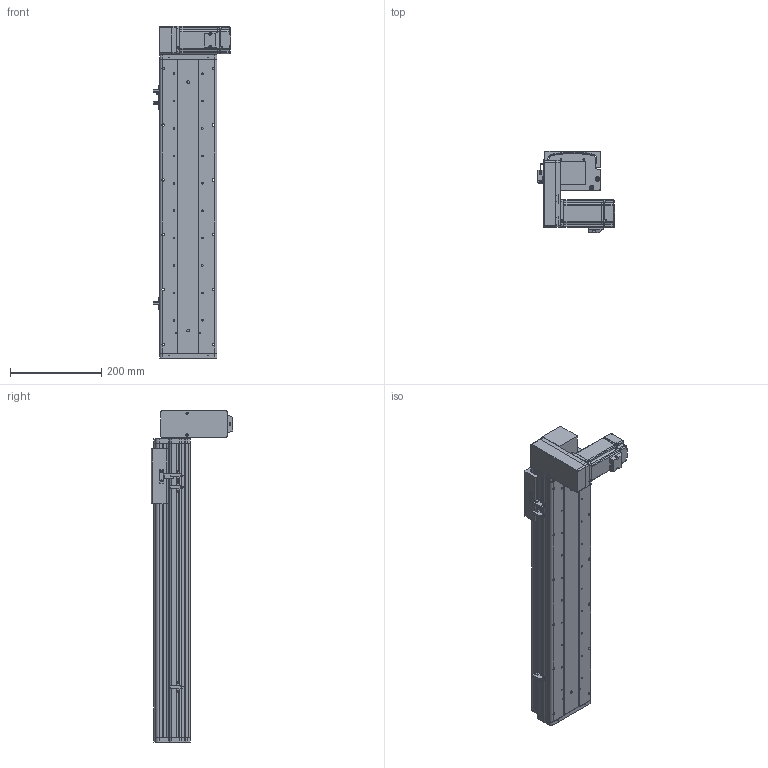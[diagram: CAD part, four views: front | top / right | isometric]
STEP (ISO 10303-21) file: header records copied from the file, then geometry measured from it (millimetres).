
FILE_DESCRIPTION (( 'STEP AP214' ), '1' );
FILE_NAME ('KSD125B-S450-MRD-CM.STEP', '2017-10-21T06:03:05', ( '微软用户' ), ( '微软中国' ), 'SwSTEP 2.0', 'SolidWorks 2014', '' );
FILE_SCHEMA (( 'AUTOMOTIVE_DESIGN' ));
Length unit declared in the file: millimetre
Products named in the file (17): HTPA30S3M150_A_H6_a佪裝蚚; HTPA30S3M150_A_H6_a萇儂蚚; 100宽马达安装板连板上下折丝杆同步带; KSD125模组450行程同步带-防尘盖; 125模组450行程同步带-底板; KSD125模组同步带-防撞垫2; 覜茼え68遵圉猾敕; U倰嫖萇假蚾璃; U倰嫖萇EEㄜSX672; KSD125模组同步带-防撞垫1; 100宽马达安装板同步带右; 前端板-125宽模组同步带; 125模组同步带-尾端板1; KSD125模组同步带-滑动座1; KSD125B-S450-MRD-CM; 悵誘欶奻狟殏; MHMD042G1CA_2_03
Assembly tree (20 placements, depth 2):
  KSD125B-S450-MRD-CM
    KSD125模组同步带-滑动座1
    125模组同步带-尾端板1
    前端板-125宽模组同步带
    100宽马达安装板同步带右
    KSD125模组同步带-防撞垫1
    U倰嫖萇EEㄜSX672  x3
    U倰嫖萇假蚾璃  x3
    覜茼え68遵圉猾敕
    KSD125模组同步带-防撞垫2
    125模组450行程同步带-底板
    KSD125模组450行程同步带-防尘盖
    100宽马达安装板连板上下折丝杆同步带
    HTPA30S3M150_A_H6_a萇儂蚚
    HTPA30S3M150_A_H6_a佪裝蚚
    MHMD042G1CA_2_03
    悵誘欶奻狟殏
Bounding box: 168.7 x 179.5 x 727 mm (x, y, z)
Volume: 2457352.8 mm3; surface area: 858158.9 mm2
Topology: 19 solids, 22 shells, 2235 faces, 6469 edges, 4274 vertices
Faces by surface type: cylinder 1388, plane 720, cone 105, bspline 22
Entity records: 79151 total; most frequent: CARTESIAN_POINT 15663, DIRECTION 12314, ORIENTED_EDGE 11458, EDGE_CURVE 5807, AXIS2_PLACEMENT_3D 4749, VERTEX_POINT 3866, VECTOR 2816, LINE 2816
